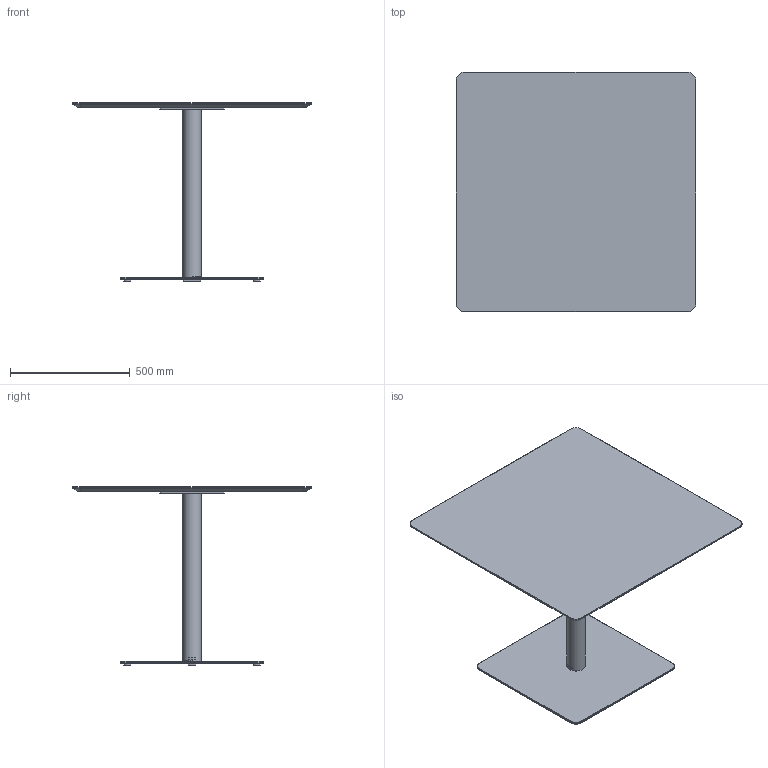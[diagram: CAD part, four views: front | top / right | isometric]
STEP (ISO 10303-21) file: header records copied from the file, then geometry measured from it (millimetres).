
FILE_DESCRIPTION( ('This file contains a STEP AP42 implementation' ,'as created by ZW3D STEP Interface translator.') ,'2;1' );
FILE_NAME( 'Henri - B_Carré - F3 - M5 - 1000 x 1000 x 750.stp' ,'24 912.171727', (''), ('ZWCAD Software Co.'), 'Version 1.0', 'ZW3D to STEP translator', '' );
FILE_SCHEMA(('AUTOMOTIVE_DESIGN { 1 0 10303 214 1 1 1 1 }'));
Length unit declared in the file: millimetre
Products named in the file (14): 0; PIED BISTROT PARAMETRIQUE_; COLONNE ACIER Ø76 V.02_; TUB-D076-02_; PLA-R76B-01_; CROIX ACIER 370 V.02_; CRX-X370-02_; SOCLE ACIER L 600x600 V.02_; SCL-R600-02_; PLA-R30A-01_; PLA-R30A-01; WUERTH 0276063020 Euro-screw 6.3x2 Verzinkt_; PLATEAU BISTROT PARAMETRIQUE_; insert_m6_13_
Assembly tree (22 placements, depth 3):
  0
  PIED BISTROT PARAMETRIQUE_
    COLONNE ACIER Ø76 V.02_
      TUB-D076-02_
      PLA-R76B-01_  x2
    CROIX ACIER 370 V.02_
      CRX-X370-02_
    SOCLE ACIER L 600x600 V.02_
      SCL-R600-02_
      PLA-R30A-01_
      PLA-R30A-01  x3
    WUERTH 0276063020 Euro-screw 6.3x2 Verzinkt_
    PLATEAU BISTROT PARAMETRIQUE_
      insert_m6_13_  x8
Bounding box: 1000 x 1000 x 744 mm (x, y, z)
Volume: 23028655.1 mm3; surface area: 3286043.1 mm2
Topology: 19 solids, 19 shells, 537 faces, 1310 edges, 822 vertices
Faces by surface type: plane 262, bspline 121, cylinder 98, cone 55, torus 1
Full cylindrical faces by diameter (mm): 4.88 x1, 6 x8, 6.3 x1, 8 x45, 12 x2, 14 x2, 30 x4, 72 x1, 76 x1
Entity records: 12310 total; most frequent: CARTESIAN_POINT 3396, ORIENTED_EDGE 1624, DIRECTION 1519, EDGE_CURVE 812, VERTEX_POINT 518, VECTOR 513, LINE 513, AXIS2_PLACEMENT_3D 503
